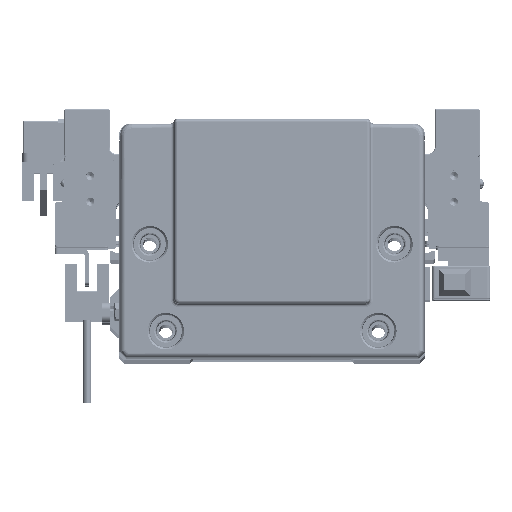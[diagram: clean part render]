
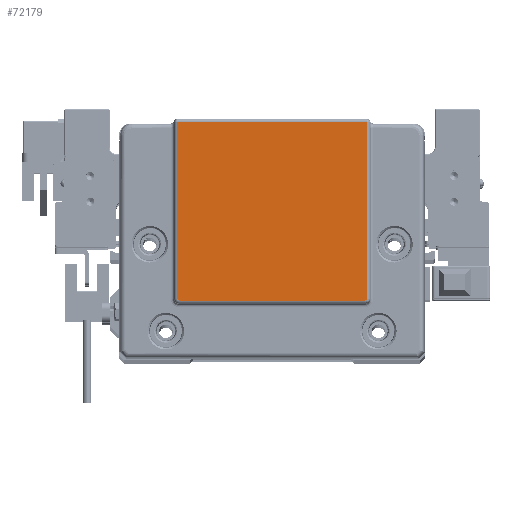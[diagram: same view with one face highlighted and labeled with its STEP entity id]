
A CAD part, top view. The second image highlights one B-rep face of the part: STEP entity #72179.
In plain terms, the highlighted planar face has unit normal (0, 0, 1) as drawn and (0, 0, -1) by its records, which use the part's own axes.
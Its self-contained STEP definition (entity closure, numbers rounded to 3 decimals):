
#2251 = EDGE_CURVE ( 'NONE', #35120, #76509, #14323, .T. ) ;
#3706 = DIRECTION ( 'NONE',  ( 0., -1., 0. ) ) ;
#5723 = EDGE_LOOP ( 'NONE', ( #63090, #29569, #15274, #37831, #6358, #36552 ) ) ;
#6358 = ORIENTED_EDGE ( 'NONE', *, *, #75630, .T. ) ;
#7397 = CARTESIAN_POINT ( 'NONE',  ( 29.397, -18.923, -2. ) ) ;
#9330 = DIRECTION ( 'NONE',  ( 0., 0., -1. ) ) ;
#10110 = CARTESIAN_POINT ( 'NONE',  ( -29.209, -19.151, -2. ) ) ;
#10983 = CARTESIAN_POINT ( 'NONE',  ( 29.343, -19.023, -2. ) ) ;
#11546 = CARTESIAN_POINT ( 'NONE',  ( -28.935, -19.232, -2. ) ) ;
#11946 = VERTEX_POINT ( 'NONE', #77206 ) ;
#12452 = DIRECTION ( 'NONE',  ( -1., 0., 0. ) ) ;
#13310 = CARTESIAN_POINT ( 'NONE',  ( 28.935, -19.232, -2. ) ) ;
#14323 = B_SPLINE_CURVE_WITH_KNOTS ( 'NONE', 3,
 ( #52907, #47431, #46628, #65826, #16856, #36056, #28605, #59953, #52531, #52143, #76422, #40785, #64670, #10983, #34877, #58792, #28974, #54858, #48960, #31688, #7397, #66599, #19560, #61482, #43488 ),
 .UNSPECIFIED., .F., .F.,
 ( 4, 2, 1, 1, 1, 1, 2, 2, 2, 2, 2, 1, 2, 2, 4 ),
 ( 0., 0.25, 0.375, 0.438, 0.469, 0.484, 0.492, 0.5, 0.625, 0.688, 0.719, 0.734, 0.742, 0.75, 1. ),
 .UNSPECIFIED. ) ;
#15274 = ORIENTED_EDGE ( 'NONE', *, *, #41207, .T. ) ;
#15598 = CARTESIAN_POINT ( 'NONE',  ( -29.421, -18.866, -2. ) ) ;
#15997 = CARTESIAN_POINT ( 'NONE',  ( -29.142, -19.188, -2. ) ) ;
#16778 = CARTESIAN_POINT ( 'NONE',  ( -29.126, -19.195, -2. ) ) ;
#16856 = CARTESIAN_POINT ( 'NONE',  ( 29.201, -19.157, -2. ) ) ;
#19560 = CARTESIAN_POINT ( 'NONE',  ( 29.427, -18.849, -2. ) ) ;
#21000 = CARTESIAN_POINT ( 'NONE',  ( 29.435, 0., -2. ) ) ;
#21760 = LINE ( 'NONE', #21000, #68341 ) ;
#21886 = CARTESIAN_POINT ( 'NONE',  ( -29.292, -19.083, -2. ) ) ;
#22284 = CARTESIAN_POINT ( 'NONE',  ( -28.988, -19.232, -2. ) ) ;
#23463 = CARTESIAN_POINT ( 'NONE',  ( -29.435, -18.732, -2. ) ) ;
#23600 = EDGE_CURVE ( 'NONE', #11946, #41375, #52132, .T. ) ;
#27183 = CARTESIAN_POINT ( 'NONE',  ( 0., 36.185, -2. ) ) ;
#28145 = DIRECTION ( 'NONE',  ( -1., 0., 0. ) ) ;
#28526 = AXIS2_PLACEMENT_3D ( 'NONE', #34019, #9330, #28145 ) ;
#28605 = CARTESIAN_POINT ( 'NONE',  ( 29.268, -19.105, -2. ) ) ;
#28974 = CARTESIAN_POINT ( 'NONE',  ( 29.378, -18.966, -2. ) ) ;
#29569 = ORIENTED_EDGE ( 'NONE', *, *, #76224, .T. ) ;
#30519 = VERTEX_POINT ( 'NONE', #47367 ) ;
#31688 = CARTESIAN_POINT ( 'NONE',  ( 29.395, -18.93, -2. ) ) ;
#33634 = CARTESIAN_POINT ( 'NONE',  ( -29.294, -19.08, -2. ) ) ;
#34018 = CARTESIAN_POINT ( 'NONE',  ( -29.282, -19.093, -2. ) ) ;
#34019 = CARTESIAN_POINT ( 'NONE',  ( 0., 0., -2. ) ) ;
#34809 = CARTESIAN_POINT ( 'NONE',  ( -29.226, -19.14, -2. ) ) ;
#34877 = CARTESIAN_POINT ( 'NONE',  ( 29.354, -19.006, -2. ) ) ;
#34948 = CARTESIAN_POINT ( 'NONE',  ( -29.435, 36.185, -2. ) ) ;
#35057 = VECTOR ( 'NONE', #57730, 1000. ) ;
#35120 = VERTEX_POINT ( 'NONE', #13310 ) ;
#35184 = CARTESIAN_POINT ( 'NONE',  ( -29.299, -19.076, -2. ) ) ;
#36056 = CARTESIAN_POINT ( 'NONE',  ( 29.247, -19.124, -2. ) ) ;
#36552 = ORIENTED_EDGE ( 'NONE', *, *, #23600, .F. ) ;
#37768 = LINE ( 'NONE', #51065, #72302 ) ;
#37831 = ORIENTED_EDGE ( 'NONE', *, *, #2251, .F. ) ;
#39538 = CARTESIAN_POINT ( 'NONE',  ( -29.18, -19.169, -2. ) ) ;
#39926 = CARTESIAN_POINT ( 'NONE',  ( -29.169, -19.175, -2. ) ) ;
#40304 = CARTESIAN_POINT ( 'NONE',  ( -29.133, -19.192, -2. ) ) ;
#40706 = CARTESIAN_POINT ( 'NONE',  ( -29.151, -19.183, -2. ) ) ;
#40785 = CARTESIAN_POINT ( 'NONE',  ( 29.296, -19.079, -2. ) ) ;
#41111 = CARTESIAN_POINT ( 'NONE',  ( -29.326, -19.044, -2. ) ) ;
#41207 = EDGE_CURVE ( 'NONE', #30519, #76509, #21760, .T. ) ;
#41375 = VERTEX_POINT ( 'NONE', #11546 ) ;
#43488 = CARTESIAN_POINT ( 'NONE',  ( 29.435, -18.732, -2. ) ) ;
#46628 = CARTESIAN_POINT ( 'NONE',  ( 29.069, -19.218, -2. ) ) ;
#47367 = CARTESIAN_POINT ( 'NONE',  ( 29.435, 36.185, -2. ) ) ;
#47431 = CARTESIAN_POINT ( 'NONE',  ( 29.003, -19.232, -2. ) ) ;
#47442 = VECTOR ( 'NONE', #12452, 1000. ) ;
#48960 = CARTESIAN_POINT ( 'NONE',  ( 29.391, -18.939, -2. ) ) ;
#51065 = CARTESIAN_POINT ( 'NONE',  ( -29.435, 0., -2. ) ) ;
#52132 = B_SPLINE_CURVE_WITH_KNOTS ( 'NONE', 3,
 ( #23463, #57935, #15598, #52836, #59096, #41111, #75976, #35184, #33634, #21886, #64984, #34018, #52453, #34809, #10110, #39538, #39926, #40706, #15997, #40304, #16778, #76737, #69303, #22284, #58330 ),
 .UNSPECIFIED., .F., .F.,
 ( 4, 2, 1, 1, 1, 1, 2, 2, 2, 2, 2, 1, 2, 2, 4 ),
 ( 0., 0.25, 0.375, 0.437, 0.469, 0.484, 0.492, 0.5, 0.625, 0.687, 0.719, 0.734, 0.742, 0.75, 1. ),
 .UNSPECIFIED. ) ;
#52143 = CARTESIAN_POINT ( 'NONE',  ( 29.286, -19.089, -2. ) ) ;
#52453 = CARTESIAN_POINT ( 'NONE',  ( -29.266, -19.109, -2. ) ) ;
#52531 = CARTESIAN_POINT ( 'NONE',  ( 29.283, -19.092, -2. ) ) ;
#52836 = CARTESIAN_POINT ( 'NONE',  ( -29.383, -18.956, -2. ) ) ;
#52907 = CARTESIAN_POINT ( 'NONE',  ( 28.935, -19.232, -2. ) ) ;
#53993 = LINE ( 'NONE', #66132, #47442 ) ;
#54858 = CARTESIAN_POINT ( 'NONE',  ( 29.386, -18.948, -2. ) ) ;
#57269 = VERTEX_POINT ( 'NONE', #34948 ) ;
#57730 = DIRECTION ( 'NONE',  ( 1., 0., 0. ) ) ;
#57935 = CARTESIAN_POINT ( 'NONE',  ( -29.435, -18.801, -2. ) ) ;
#58330 = CARTESIAN_POINT ( 'NONE',  ( -28.935, -19.232, -2. ) ) ;
#58522 = LINE ( 'NONE', #27183, #35057 ) ;
#58792 = CARTESIAN_POINT ( 'NONE',  ( 29.372, -18.977, -2. ) ) ;
#59096 = CARTESIAN_POINT ( 'NONE',  ( -29.36, -18.998, -2. ) ) ;
#59953 = CARTESIAN_POINT ( 'NONE',  ( 29.279, -19.096, -2. ) ) ;
#61482 = CARTESIAN_POINT ( 'NONE',  ( 29.435, -18.785, -2. ) ) ;
#61653 = DIRECTION ( 'NONE',  ( 0., 1., 0. ) ) ;
#63090 = ORIENTED_EDGE ( 'NONE', *, *, #71536, .T. ) ;
#64670 = CARTESIAN_POINT ( 'NONE',  ( 29.312, -19.063, -2. ) ) ;
#64984 = CARTESIAN_POINT ( 'NONE',  ( -29.289, -19.086, -2. ) ) ;
#65826 = CARTESIAN_POINT ( 'NONE',  ( 29.158, -19.18, -2. ) ) ;
#66132 = CARTESIAN_POINT ( 'NONE',  ( 0., -19.232, -2. ) ) ;
#66327 = CARTESIAN_POINT ( 'NONE',  ( 29.435, -18.732, -2. ) ) ;
#66599 = CARTESIAN_POINT ( 'NONE',  ( 29.399, -18.919, -2. ) ) ;
#68341 = VECTOR ( 'NONE', #3706, 1000. ) ;
#69303 = CARTESIAN_POINT ( 'NONE',  ( -29.051, -19.224, -2. ) ) ;
#71536 = EDGE_CURVE ( 'NONE', #11946, #57269, #37768, .T. ) ;
#72179 = ADVANCED_FACE ( 'NONE', ( #74816 ), #75565, .T. ) ;
#72302 = VECTOR ( 'NONE', #61653, 1000. ) ;
#74816 = FACE_OUTER_BOUND ( 'NONE', #5723, .T. ) ;
#75565 = PLANE ( 'NONE',  #28526 ) ;
#75630 = EDGE_CURVE ( 'NONE', #35120, #41375, #53993, .T. ) ;
#75976 = CARTESIAN_POINT ( 'NONE',  ( -29.308, -19.065, -2. ) ) ;
#76224 = EDGE_CURVE ( 'NONE', #57269, #30519, #58522, .T. ) ;
#76422 = CARTESIAN_POINT ( 'NONE',  ( 29.288, -19.086, -2. ) ) ;
#76509 = VERTEX_POINT ( 'NONE', #66327 ) ;
#76737 = CARTESIAN_POINT ( 'NONE',  ( -29.121, -19.196, -2. ) ) ;
#77206 = CARTESIAN_POINT ( 'NONE',  ( -29.435, -18.732, -2. ) ) ;
